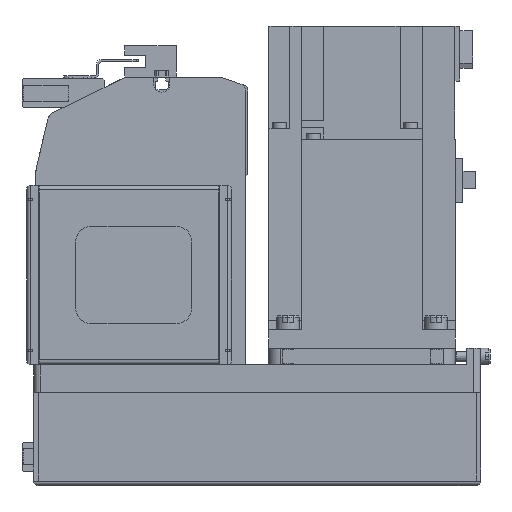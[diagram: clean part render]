
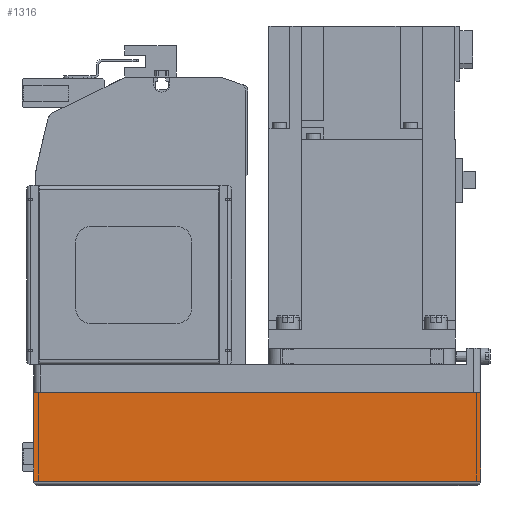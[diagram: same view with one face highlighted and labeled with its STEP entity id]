
A CAD part, left-side view. The second image highlights one B-rep face of the part: STEP entity #1316.
In plain terms, the highlighted planar face has unit normal (-1, 0, 0) as drawn and (0, 1, 0) by its records, which use the part's own axes.
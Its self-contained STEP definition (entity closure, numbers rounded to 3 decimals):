
#1316 = ADVANCED_FACE( '', ( #3575 ), #3576, .T. );
#3575 = FACE_OUTER_BOUND( '', #7131, .T. );
#3576 = PLANE( '', #7132 );
#7131 = EDGE_LOOP( '', ( #10917, #10918, #10919, #10920 ) );
#7132 = AXIS2_PLACEMENT_3D( '', #10921, #10922, #10923 );
#10917 = ORIENTED_EDGE( '', *, *, #20271, .F. );
#10918 = ORIENTED_EDGE( '', *, *, #20272, .F. );
#10919 = ORIENTED_EDGE( '', *, *, #20140, .T. );
#10920 = ORIENTED_EDGE( '', *, *, #20273, .T. );
#10921 = CARTESIAN_POINT( '', ( -192., 40., -50. ) );
#10922 = DIRECTION( '', ( 0., 1., 0. ) );
#10923 = DIRECTION( '', ( 0., 0., 1. ) );
#20140 = EDGE_CURVE( '', #23905, #23910, #23912, .T. );
#20271 = EDGE_CURVE( '', #24146, #24147, #24148, .T. );
#20272 = EDGE_CURVE( '', #23905, #24146, #24149, .T. );
#20273 = EDGE_CURVE( '', #23910, #24147, #24150, .T. );
#23905 = VERTEX_POINT( '', #29509 );
#23910 = VERTEX_POINT( '', #29516 );
#23912 = LINE( '', #29519, #29520 );
#24146 = VERTEX_POINT( '', #29817 );
#24147 = VERTEX_POINT( '', #29818 );
#24148 = LINE( '', #29819, #29820 );
#24149 = LINE( '', #29821, #29822 );
#24150 = LINE( '', #29823, #29824 );
#29509 = CARTESIAN_POINT( '', ( -192., 40., -50. ) );
#29516 = CARTESIAN_POINT( '', ( -192., 40., -12.1 ) );
#29519 = CARTESIAN_POINT( '', ( -192., 40., -50. ) );
#29520 = VECTOR( '', #37689, 1000. );
#29817 = CARTESIAN_POINT( '', ( 0., 40., -50. ) );
#29818 = CARTESIAN_POINT( '', ( 0., 40., -12.1 ) );
#29819 = CARTESIAN_POINT( '', ( 0., 40., -50. ) );
#29820 = VECTOR( '', #37895, 1000. );
#29821 = CARTESIAN_POINT( '', ( -192., 40., -50. ) );
#29822 = VECTOR( '', #37896, 1000. );
#29823 = CARTESIAN_POINT( '', ( -192., 40., -12.1 ) );
#29824 = VECTOR( '', #37897, 1000. );
#37689 = DIRECTION( '', ( 0., 0., 1. ) );
#37895 = DIRECTION( '', ( 0., 0., 1. ) );
#37896 = DIRECTION( '', ( 1., 0., 0. ) );
#37897 = DIRECTION( '', ( 1., 0., 0. ) );
